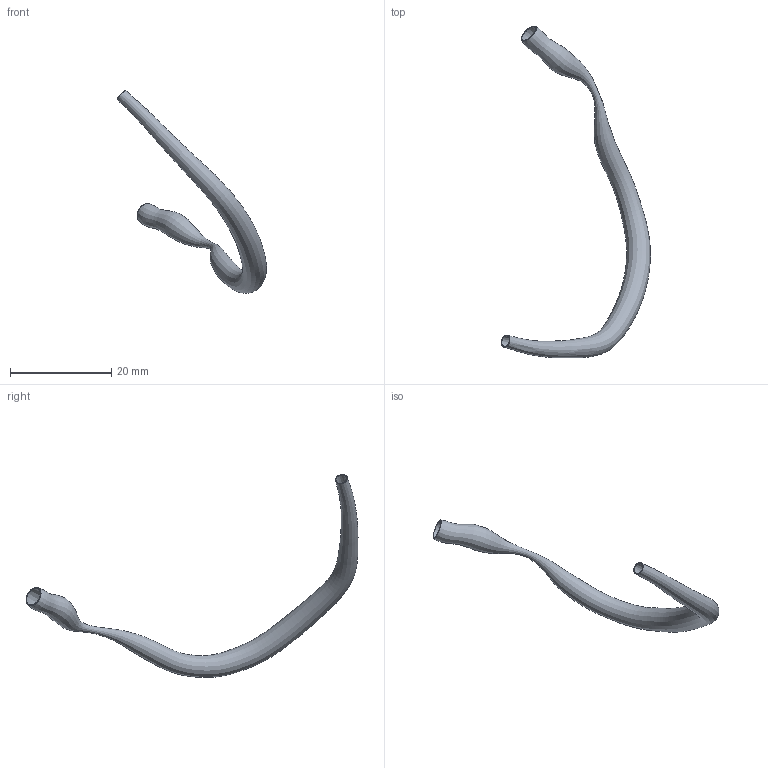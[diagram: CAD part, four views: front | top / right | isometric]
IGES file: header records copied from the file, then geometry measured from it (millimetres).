
Global section: file name: C:\Documents and Settings\Administrator\Desktop\FDA Bifurcation win\RawData_for_IGES\HRCA_Data\20000719.092552\IGES\20000719.092552.RCA.SEG.ES.igs; native system: Rhinoceros ( May 19 2006 ); preprocessor: Trout Lake IGES 012 May 19 2006; date: 100728.202239; units: centimetre
Bounding box: 29.41 x 65.47 x 40.01 mm (x, y, z)
Surface area: 2447.9 mm2 (no closed solid volume)
Topology: 0 solids, 0 shells, 4 faces, 12 edges, 8 vertices
Faces by surface type: bspline 4
